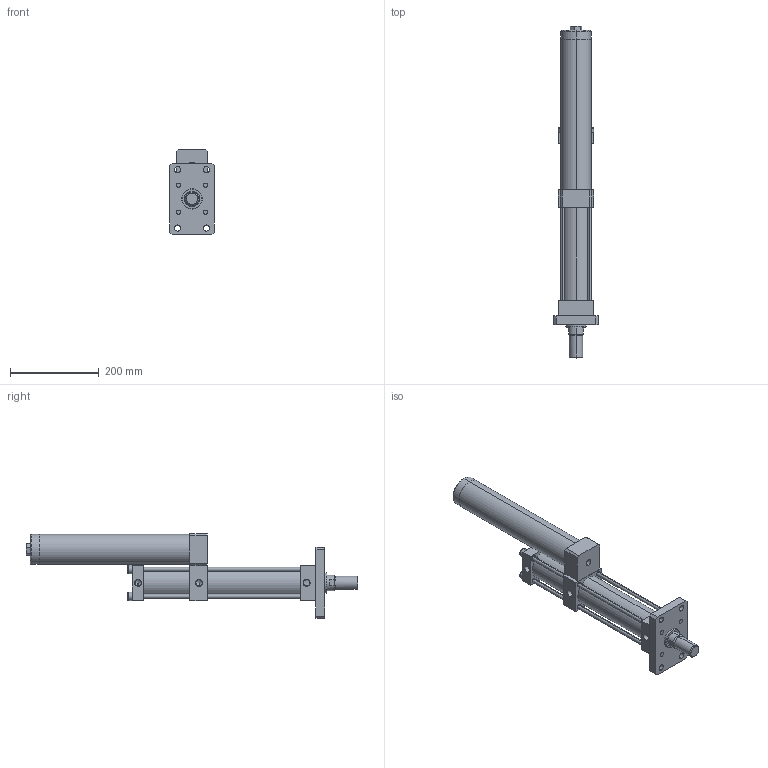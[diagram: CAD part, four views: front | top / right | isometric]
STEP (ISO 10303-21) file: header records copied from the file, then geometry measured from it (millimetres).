
FILE_DESCRIPTION (( 'STEP AP203' ), '1' );
FILE_NAME ('MPT-63-150-5-1T.STEP', '2016-03-17T09:40:06', ( 'WIN' ), ( '' ), 'SwSTEP 2.0', 'SolidWorks 2014', '' );
FILE_SCHEMA (( 'CONFIG_CONTROL_DESIGN' ));
Length unit declared in the file: millimetre
Products named in the file (1): MPT-63-150-5-1T
Bounding box: 100 x 750 x 191 mm (x, y, z)
Volume: 2298122.5 mm3; surface area: 465071.6 mm2
Topology: 14 solids, 14 shells, 251 faces, 573 edges, 360 vertices
Faces by surface type: plane 131, cylinder 84, cone 24, torus 12
Entity records: 7235 total; most frequent: DIRECTION 1304, CARTESIAN_POINT 1278, ORIENTED_EDGE 1134, EDGE_CURVE 567, AXIS2_PLACEMENT_3D 496, VERTEX_POINT 360, LINE 312, VECTOR 312
